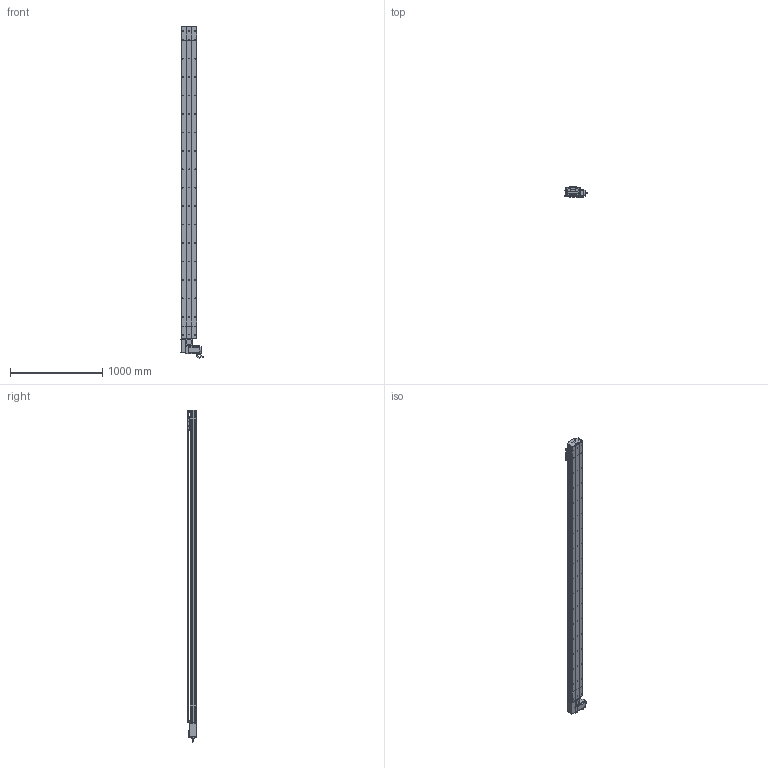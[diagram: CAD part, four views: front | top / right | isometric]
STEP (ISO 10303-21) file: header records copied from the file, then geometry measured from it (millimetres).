
FILE_DESCRIPTION (( 'STEP AP214' ), '1' );
FILE_NAME ('D17 TBH RH S3100.STEP', '2010-06-30T09:06:49', ( 'Christophe Gaillard' ), ( 'SGA' ), 'SwSTEP 2.0', 'SolidWorks 2010', '' );
FILE_SCHEMA (( 'AUTOMOTIVE_DESIGN' ));
Length unit declared in the file: millimetre
Products named in the file (40): Head RH D17B_Default; cache arbre D17_Default; couvercle D17B head_Default; corpl head D17 _Default; vis M5 L5_Default; D17 TBH RH S3100; course 3100 D17B_Default; Couroie+ rail D17 Course 3100 ; corp D17B 3100_Default; couvercle D17B course L3100_Default; corps 90BLDC125A-640; codeur 90BLDC125-640; Conecteur2_Default; Conecteur_Default; couroie head D17_Default; Moteur motionking 90BLDC125A-640; avant 90BLDC125A-640; vis M5 L70_Default; Plaque racord D17_Default; vis M5 L16_Default; poulie head_Default; Arbre+rail head D17B; plaque de  bout head D17B RH_Default; vis M5 L12_Default; guide D17; Chariot D17; chariot D17S_Default; vis M5 L25_Default; poulie tail_Default; plaque de  bout tail D17B_Default; Rail D17B; vis M5 L8 90°_Default; couvercle D17B_Default; Couroie tail D17B_Default; tete d''axe poulie D17B; corp tail D17B+100_Default; Tail D17B+100_Default; Renvoi RH_Default; Vis M5 L16-2_Default; cache D17_Default
Assembly tree (70 placements, depth 4):
  D17 TBH RH S3100
    course 3100 D17B_Default
      couvercle D17B course L3100_Default
      Couroie+ rail D17 Course 3100 
      corp D17B 3100_Default
    Head RH D17B_Default
      vis M5 L12_Default  x8
      Plaque racord D17_Default
      vis M5 L70_Default  x4
      Vis M5 L16-2_Default  x4
      couroie head D17_Default
      cache arbre D17_Default
      cache D17_Default  x2
      vis M5 L5_Default  x4
      Renvoi RH_Default
      poulie head_Default
      vis M5 L25_Default  x2
      couvercle D17B head_Default
      corpl head D17 _Default
      Arbre+rail head D17B
      vis M5 L16_Default  x2
      Moteur motionking 90BLDC125A-640
        avant 90BLDC125A-640
        Conecteur_Default
        Conecteur2_Default
        corps 90BLDC125A-640
        codeur 90BLDC125-640
      plaque de  bout head D17B RH_Default
    Tail D17B+100_Default
      vis M5 L8 90°_Default  x2
      vis M5 L12_Default  x4
      couvercle D17B_Default
      plaque de  bout tail D17B_Default
      corp tail D17B+100_Default
      poulie tail_Default
      vis M5 L25_Default  x2
      Rail D17B
      tete d''axe poulie D17B
      Couroie tail D17B_Default
    chariot D17S_Default
      vis M5 L12_Default  x4
      Chariot D17
      guide D17  x2
Bounding box: 245.2 x 105.65 x 3600.95 mm (x, y, z)
Volume: 19978184.7 mm3; surface area: 5827885.4 mm2
Topology: 94 solids, 94 shells, 2789 faces, 7147 edges, 4598 vertices
Faces by surface type: plane 1611, cylinder 865, bspline 136, cone 88, torus 85, sphere 4
Entity records: 88498 total; most frequent: CARTESIAN_POINT 25879, ORIENTED_EDGE 11066, DIRECTION 10470, EDGE_CURVE 5533, VERTEX_POINT 3622, VECTOR 3584, LINE 3584, AXIS2_PLACEMENT_3D 3443
